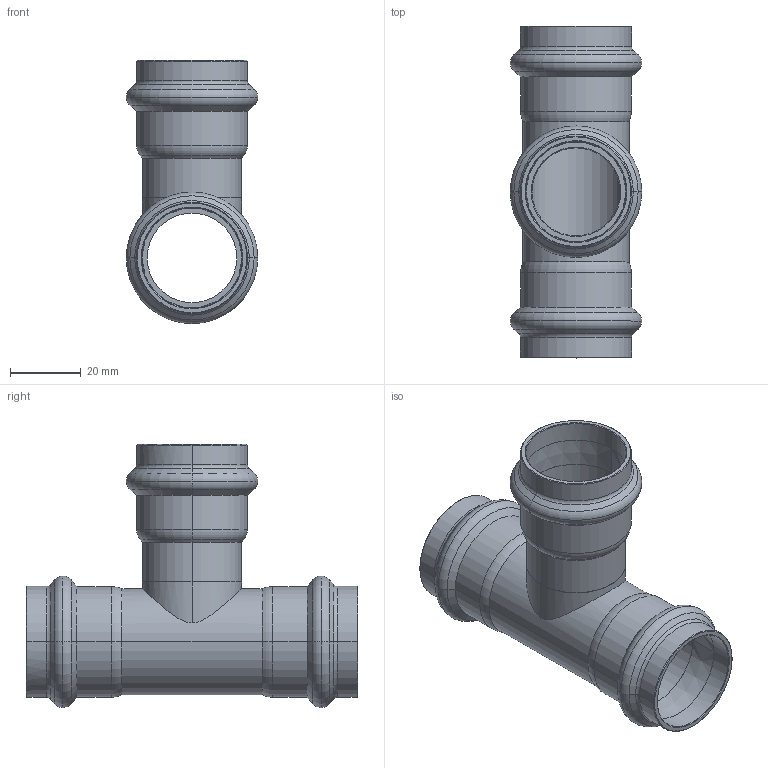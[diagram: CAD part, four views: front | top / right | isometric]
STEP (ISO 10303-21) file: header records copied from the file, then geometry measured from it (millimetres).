
FILE_DESCRIPTION(('CoCreate Modeling STEP Export'),'2;1');
FILE_NAME('8130VW28.stp','2013-01-29T16:16:35',(''),(''),'CoCreate Modeling STEP processor for AP214 (Solid Model)','CoCreate Modeling 17.00A 17-Jun-2010 (C) Parametric Technology GmbH','');
FILE_SCHEMA(('AUTOMOTIVE_DESIGN { 1 0 10303 214 1 1 1 1 }'));
Length unit declared in the file: millimetre
Products named in the file (2): 8130VW28
Assembly tree (1 placements, depth 2):
  8130VW28
    8130VW28
Bounding box: 37.2 x 93.81 x 74.44 mm (x, y, z)
Volume: 23021.8 mm3; surface area: 26277.7 mm2
Topology: 1 solids, 1 shells, 134 faces, 300 edges, 176 vertices
Faces by surface type: torus 42, cylinder 42, cone 38, plane 10, bspline 2
Entity records: 6453 total; most frequent: CARTESIAN_POINT 3934, ORIENTED_EDGE 600, DIRECTION 444, EDGE_CURVE 300, AXIS2_PLACEMENT_3D 182, VERTEX_POINT 176, EDGE_LOOP 146, FACE_OUTER_BOUND 134
